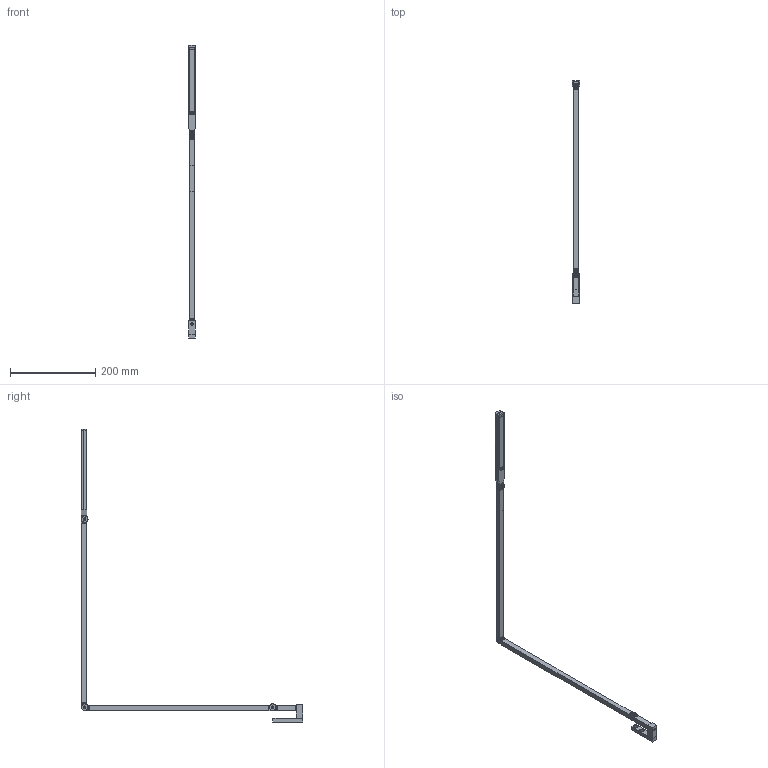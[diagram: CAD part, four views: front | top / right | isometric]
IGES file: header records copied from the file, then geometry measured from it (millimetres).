
Start section: SolidWorks IGES file using analytic representation for surfaces
Global section: file name: C:\Users\merba.NEMOLIGHTING\Desktop\Nuova cartella\UNTITLED LINEAR WALL.IGS; native system: SolidWorks 2016; preprocessor: SolidWorks 2016; author: merba; date: 200921.115719; units: millimetre
Bounding box: 18.4 x 519.15 x 686.5 mm (x, y, z)
Surface area: 91516.3 mm2 (no closed solid volume)
Topology: 0 solids, 0 shells, 1848 faces, 16421 edges, 16418 vertices
Faces by surface type: bspline 1273, revolution 575
